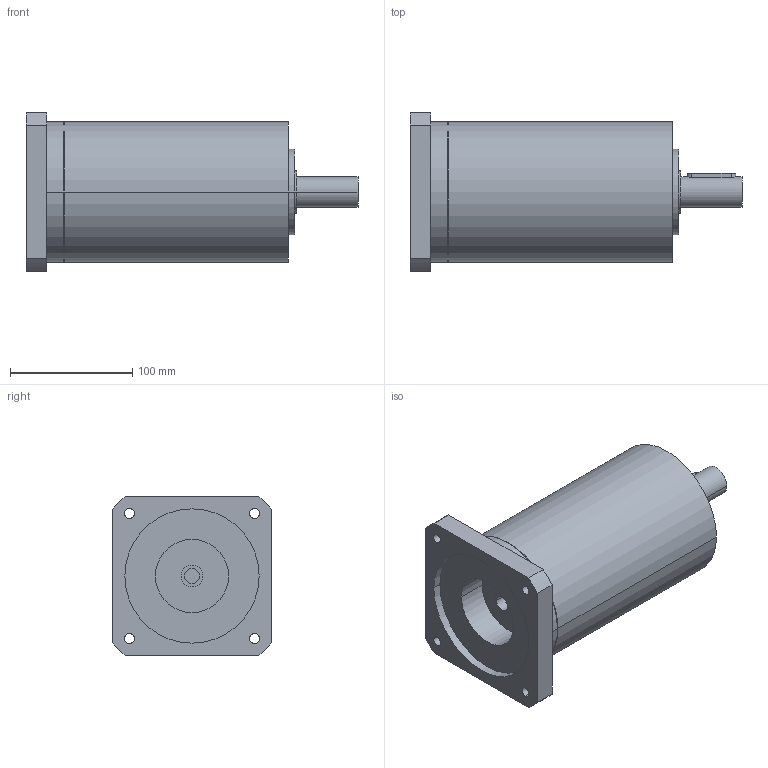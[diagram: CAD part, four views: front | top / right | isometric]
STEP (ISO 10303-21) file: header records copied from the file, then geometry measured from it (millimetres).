
FILE_DESCRIPTION(('CoCreate Modeling STEP Export'),'2;1');
FILE_NAME('GPR125_ig-48-64-80-100-140-196-245-343_25_B14_12.7_P11.stp','2014-08-26T14:20:29',(''),(''),'CoCreate Modeling STEP processor for AP214 (Solid Model)','CoCreate Modeling 16.00C 25-Feb-2009 (C) Parametric Technology GmbH','');
FILE_SCHEMA(('AUTOMOTIVE_DESIGN { 1 0 10303 214 1 1 1 1 }'));
Length unit declared in the file: millimetre
Products named in the file (2): GPR125_ig-48-64-80-100-140-196-245-343_25_B14_12.7_P11
Assembly tree (1 placements, depth 2):
  GPR125_ig-48-64-80-100-140-196-245-343_25_B14_12.7_P11
    GPR125_ig-48-64-80-100-140-196-245-343_25_B14_12.7_P11
Bounding box: 272 x 130 x 130 mm (x, y, z)
Volume: 2242359.8 mm3; surface area: 131532.4 mm2
Topology: 1 solids, 1 shells, 68 faces, 185 edges, 131 vertices
Faces by surface type: cylinder 42, plane 22, cone 4
Entity records: 1913 total; most frequent: ORIENTED_EDGE 366, CARTESIAN_POINT 360, DIRECTION 258, EDGE_CURVE 183, VERTEX_POINT 131, AXIS2_PLACEMENT_3D 97, EDGE_LOOP 90, FACE_OUTER_BOUND 68
